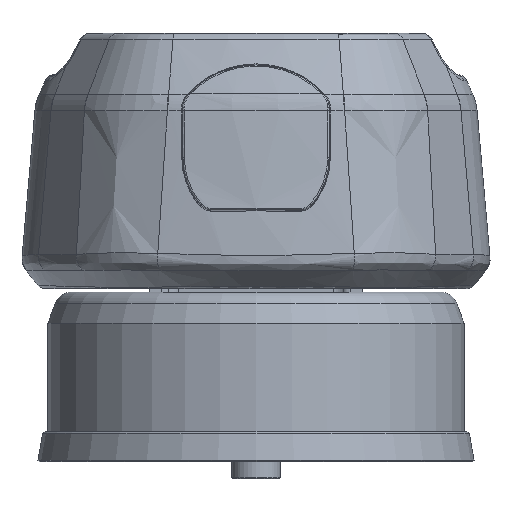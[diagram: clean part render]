
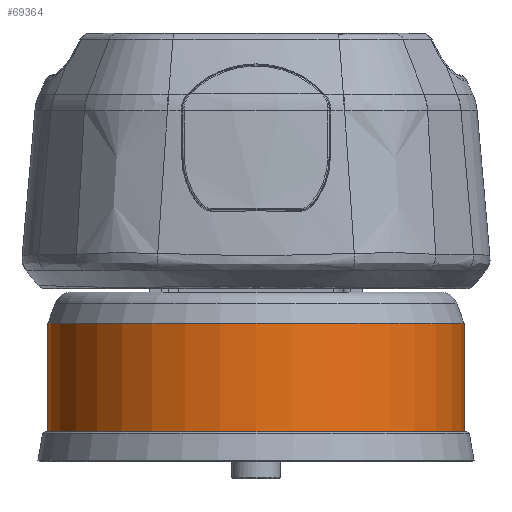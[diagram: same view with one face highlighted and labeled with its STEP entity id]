
A CAD part, front view. The second image highlights one B-rep face of the part: STEP entity #69364.
In plain terms, the highlighted cylindrical face has radius 60.318 mm (diameter 120.636 mm), a partial arc.
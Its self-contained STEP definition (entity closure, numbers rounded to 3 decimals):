
#545 = VECTOR ( 'NONE', #60455, 1000. ) ;
#2112 = ORIENTED_EDGE ( 'NONE', *, *, #46500, .T. ) ;
#3185 = CARTESIAN_POINT ( 'NONE',  ( 0., 3., -8.45 ) ) ;
#7750 = FACE_OUTER_BOUND ( 'NONE', #10845, .T. ) ;
#7844 = CARTESIAN_POINT ( 'NONE',  ( 0., 3., 22.95 ) ) ;
#10845 = EDGE_LOOP ( 'NONE', ( #58119, #41416, #2112, #98363 ) ) ;
#15858 = DIRECTION ( 'NONE',  ( 0., 0., 1. ) ) ;
#19227 = CARTESIAN_POINT ( 'NONE',  ( 60.318, 3., -22.1 ) ) ;
#21057 = DIRECTION ( 'NONE',  ( 0., 0., 1. ) ) ;
#21762 = DIRECTION ( 'NONE',  ( 0., 0., 1. ) ) ;
#22035 = AXIS2_PLACEMENT_3D ( 'NONE', #7844, #90732, #50665 ) ;
#23726 = EDGE_CURVE ( 'NONE', #70473, #69280, #80927, .T. ) ;
#27532 = EDGE_CURVE ( 'NONE', #60974, #70473, #62970, .T. ) ;
#28429 = LINE ( 'NONE', #19227, #545 ) ;
#33098 = CARTESIAN_POINT ( 'NONE',  ( -60.318, 3., 22.95 ) ) ;
#33752 = CYLINDRICAL_SURFACE ( 'NONE', #107060, 60.318 ) ;
#37048 = CARTESIAN_POINT ( 'NONE',  ( 60.318, 3., 22.95 ) ) ;
#41416 = ORIENTED_EDGE ( 'NONE', *, *, #93788, .T. ) ;
#46500 = EDGE_CURVE ( 'NONE', #91952, #69280, #28429, .T. ) ;
#50665 = DIRECTION ( 'NONE',  ( 1., 0., 0. ) ) ;
#54150 = DIRECTION ( 'NONE',  ( 1., 0., 0. ) ) ;
#58119 = ORIENTED_EDGE ( 'NONE', *, *, #27532, .F. ) ;
#58711 = CARTESIAN_POINT ( 'NONE',  ( 0., 3., -22.1 ) ) ;
#60455 = DIRECTION ( 'NONE',  ( 0., 0., 1. ) ) ;
#60974 = VERTEX_POINT ( 'NONE', #71844 ) ;
#62970 = LINE ( 'NONE', #96020, #75274 ) ;
#69280 = VERTEX_POINT ( 'NONE', #37048 ) ;
#69364 = ADVANCED_FACE ( 'NONE', ( #7750 ), #33752, .T. ) ;
#70473 = VERTEX_POINT ( 'NONE', #33098 ) ;
#71844 = CARTESIAN_POINT ( 'NONE',  ( -60.318, 3., -8.45 ) ) ;
#75274 = VECTOR ( 'NONE', #21762, 1000. ) ;
#80927 = CIRCLE ( 'NONE', #22035, 60.318 ) ;
#81456 = CARTESIAN_POINT ( 'NONE',  ( 60.318, 3., -8.45 ) ) ;
#82012 = DIRECTION ( 'NONE',  ( 1., 0., 0. ) ) ;
#87090 = CIRCLE ( 'NONE', #102764, 60.318 ) ;
#90732 = DIRECTION ( 'NONE',  ( 0., 0., 1. ) ) ;
#91952 = VERTEX_POINT ( 'NONE', #81456 ) ;
#93788 = EDGE_CURVE ( 'NONE', #60974, #91952, #87090, .T. ) ;
#96020 = CARTESIAN_POINT ( 'NONE',  ( -60.318, 3., -22.1 ) ) ;
#98363 = ORIENTED_EDGE ( 'NONE', *, *, #23726, .F. ) ;
#102764 = AXIS2_PLACEMENT_3D ( 'NONE', #3185, #21057, #54150 ) ;
#107060 = AXIS2_PLACEMENT_3D ( 'NONE', #58711, #15858, #82012 ) ;
